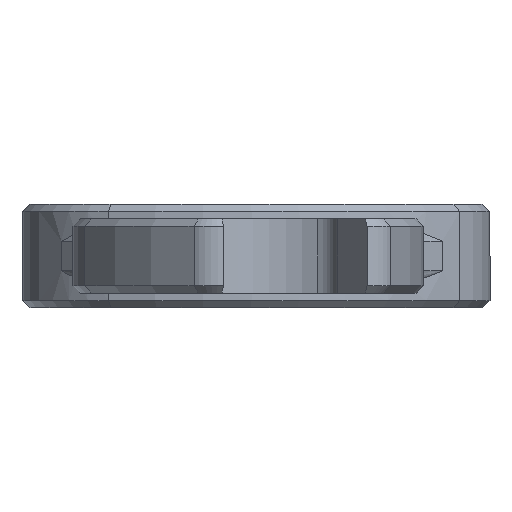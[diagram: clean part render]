
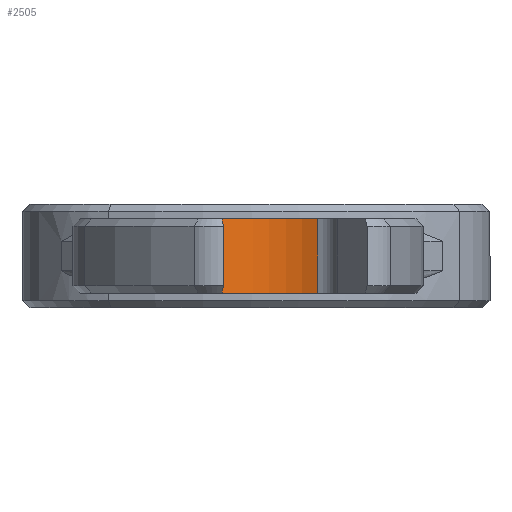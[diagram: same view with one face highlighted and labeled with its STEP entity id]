
A CAD part, left-side view. The second image highlights one B-rep face of the part: STEP entity #2505.
In plain terms, the highlighted cylindrical face has radius 6.5 mm (diameter 13 mm), a partial arc.
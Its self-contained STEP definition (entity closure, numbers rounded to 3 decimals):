
#80=CYLINDRICAL_SURFACE('',#2755,6.5);
#185=CIRCLE('',#2750,6.5);
#188=CIRCLE('',#2756,6.5);
#351=FACE_OUTER_BOUND('',#501,.T.);
#501=EDGE_LOOP('',(#2263,#2264,#2265,#2266));
#761=LINE('',#4498,#977);
#762=LINE('',#4502,#978);
#977=VECTOR('',#3424,10.);
#978=VECTOR('',#3429,10.);
#1207=VERTEX_POINT('',#4486);
#1208=VERTEX_POINT('',#4488);
#1210=VERTEX_POINT('',#4496);
#1211=VERTEX_POINT('',#4500);
#1565=EDGE_CURVE('',#1207,#1208,#185,.T.);
#1570=EDGE_CURVE('',#1207,#1210,#761,.T.);
#1571=EDGE_CURVE('',#1211,#1210,#188,.T.);
#1572=EDGE_CURVE('',#1208,#1211,#762,.T.);
#2263=ORIENTED_EDGE('',*,*,#1570,.T.);
#2264=ORIENTED_EDGE('',*,*,#1571,.F.);
#2265=ORIENTED_EDGE('',*,*,#1572,.F.);
#2266=ORIENTED_EDGE('',*,*,#1565,.F.);
#2505=ADVANCED_FACE('',(#351),#80,.F.);
#2750=AXIS2_PLACEMENT_3D('',#4489,#3412,#3413);
#2755=AXIS2_PLACEMENT_3D('',#4499,#3425,#3426);
#2756=AXIS2_PLACEMENT_3D('',#4501,#3427,#3428);
#3412=DIRECTION('center_axis',(0.,0.,1.));
#3413=DIRECTION('ref_axis',(-0.911,0.412,0.));
#3424=DIRECTION('',(0.,0.,1.));
#3425=DIRECTION('center_axis',(0.,0.,1.));
#3426=DIRECTION('ref_axis',(-0.911,0.412,0.));
#3427=DIRECTION('center_axis',(0.,0.,-1.));
#3428=DIRECTION('ref_axis',(-0.911,0.412,0.));
#3429=DIRECTION('',(0.,0.,1.));
#4486=CARTESIAN_POINT('',(-55.357,-4.363,-2.5));
#4488=CARTESIAN_POINT('',(-57.491,3.6,-2.5));
#4489=CARTESIAN_POINT('Origin',(-61.279,-1.682,-2.5));
#4496=CARTESIAN_POINT('',(-55.357,-4.363,2.5));
#4498=CARTESIAN_POINT('',(-55.357,-4.363,0.));
#4499=CARTESIAN_POINT('Origin',(-61.279,-1.682,0.));
#4500=CARTESIAN_POINT('',(-57.491,3.6,2.5));
#4501=CARTESIAN_POINT('Origin',(-61.279,-1.682,2.5));
#4502=CARTESIAN_POINT('',(-57.491,3.6,0.));
